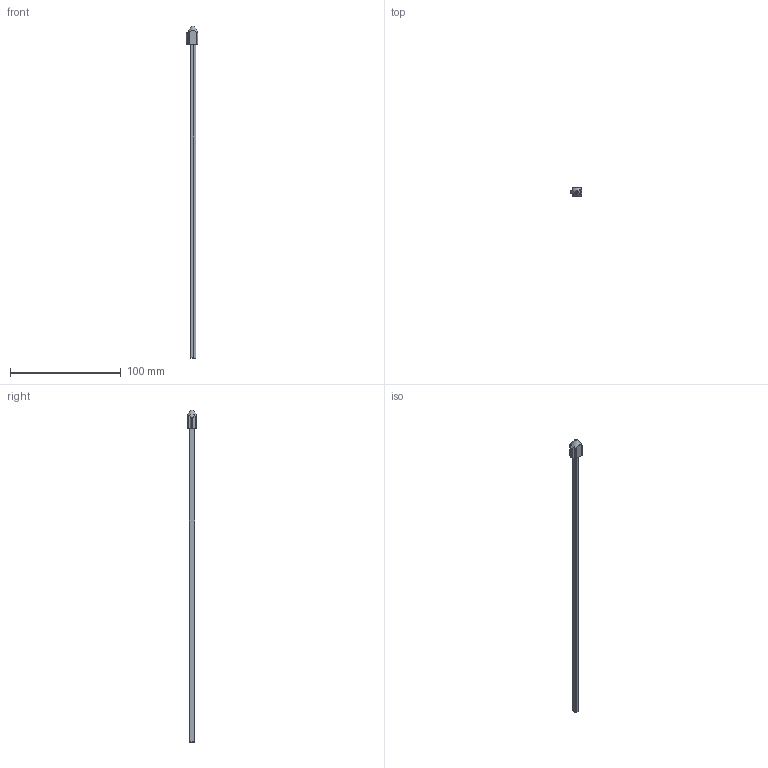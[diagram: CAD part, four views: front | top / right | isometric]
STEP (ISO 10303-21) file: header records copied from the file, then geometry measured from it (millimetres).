
FILE_DESCRIPTION (( 'STEP AP203' ), '1' );
FILE_NAME ('Âàë OptiSwitch DI-16-125 300.STEP', '2023-03-23T17:54:24', ( 'Ïîëüçîâàòåëü' ), ( '' ), 'SwSTEP 2.0', 'SolidWorks 2018', '' );
FILE_SCHEMA (( 'CONFIG_CONTROL_DESIGN' ));
Length unit declared in the file: millimetre
Products named in the file (2): ﾂ琿 OptiSwitch DI-16-125 300; Âàë OptiSwitch DI-16-125 300ìì
Assembly tree (1 placements, depth 2):
  ﾂ琿 OptiSwitch DI-16-125 300
    Âàë OptiSwitch DI-16-125 300ìì
Bounding box: 10 x 8 x 300 mm (x, y, z)
Volume: 7220.3 mm3; surface area: 5677.5 mm2
Topology: 1 solids, 1 shells, 45 faces, 112 edges, 67 vertices
Faces by surface type: plane 20, cylinder 19, sphere 5, cone 1
Full cylindrical faces by diameter (mm): 1.7 x1
Entity records: 1585 total; most frequent: CARTESIAN_POINT 370, DIRECTION 217, ORIENTED_EDGE 210, EDGE_CURVE 105, AXIS2_PLACEMENT_3D 81, VERTEX_POINT 66, VECTOR 55, LINE 55
